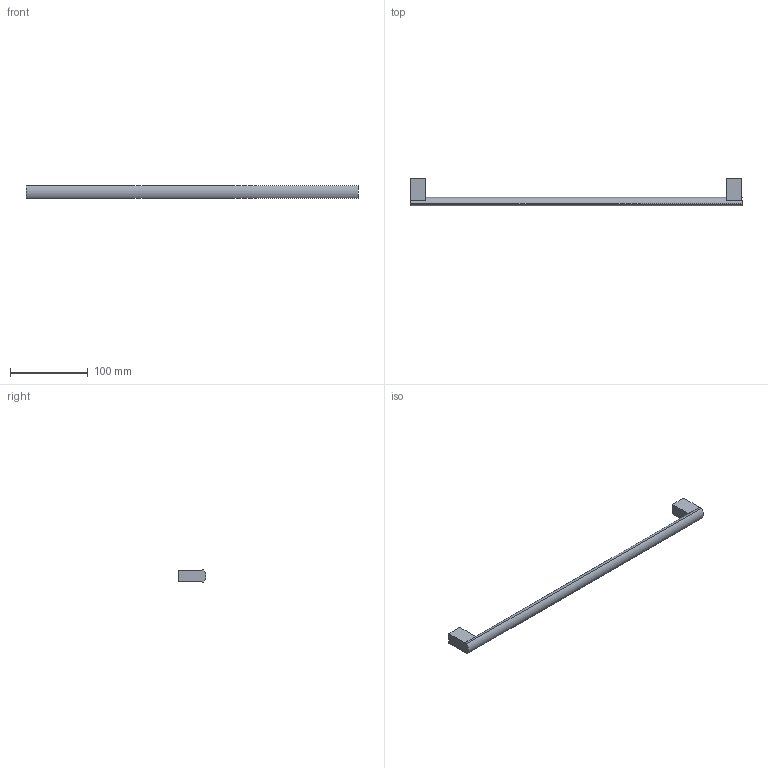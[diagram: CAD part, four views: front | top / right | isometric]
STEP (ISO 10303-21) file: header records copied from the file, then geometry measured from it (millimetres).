
FILE_DESCRIPTION( ( 'STEP AP214' ), '1' );
FILE_NAME( 'D:/Shahbaz D&D/Task/Check and correct handles with 3 drill sockets/Clivia/115210.stp', '2023-02-20T10:52:11', ( '' ), ( '' ), ' ', 'PARTsolutions', ' ' );
FILE_SCHEMA( ( 'AUTOMOTIVE_DESIGN { 1 0 10303 214 1 1 1 1 }' ) );
Length unit declared in the file: millimetre
Products named in the file (1): _115210
Bounding box: 428 x 35.96 x 16 mm (x, y, z)
Volume: 72727.9 mm3; surface area: 22576 mm2
Topology: 1 solids, 1 shells, 21 faces, 48 edges, 32 vertices
Faces by surface type: plane 17, cylinder 4
Full cylindrical faces by diameter (mm): 4 x2
Entity records: 768 total; most frequent: DIRECTION 102, CARTESIAN_POINT 100, ORIENTED_EDGE 92, EDGE_CURVE 46, AXIS2_PLACEMENT_3D 34, LINE 34, VECTOR 34, VERTEX_POINT 32
